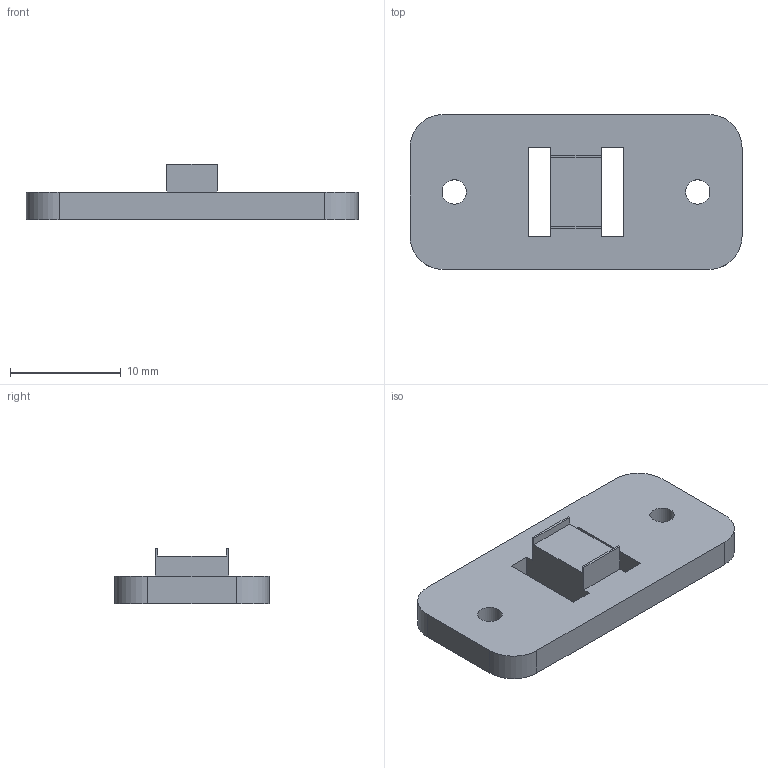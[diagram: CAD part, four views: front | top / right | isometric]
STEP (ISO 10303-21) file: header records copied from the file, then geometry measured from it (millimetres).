
FILE_DESCRIPTION(('Open CASCADE Model'),'2;1');
FILE_NAME('Open CASCADE Shape Model','2026-10-18T19:44:56',('Author'),( 'Open CASCADE'),'Open CASCADE STEP processor 7.9','Open CASCADE 7.9' ,'Unknown');
FILE_SCHEMA(('AUTOMOTIVE_DESIGN { 1 0 10303 214 1 1 1 1 }'));
Length unit declared in the file: millimetre
Products named in the file (1): Open CASCADE STEP translator 7.9 10
Bounding box: 30 x 14 x 5 mm (x, y, z)
Volume: 987.6 mm3; surface area: 1140.8 mm2
Topology: 1 solids, 1 shells, 27 faces, 78 edges, 52 vertices
Faces by surface type: plane 21, cylinder 6
Full cylindrical faces by diameter (mm): 2.2 x2
Entity records: 1876 total; most frequent: CARTESIAN_POINT 434, DIRECTION 222, ORIENTED_EDGE 156, PCURVE 156, DEFINITIONAL_REPRESENTATION 156, LINE 138, VECTOR 138, EDGE_CURVE 78
